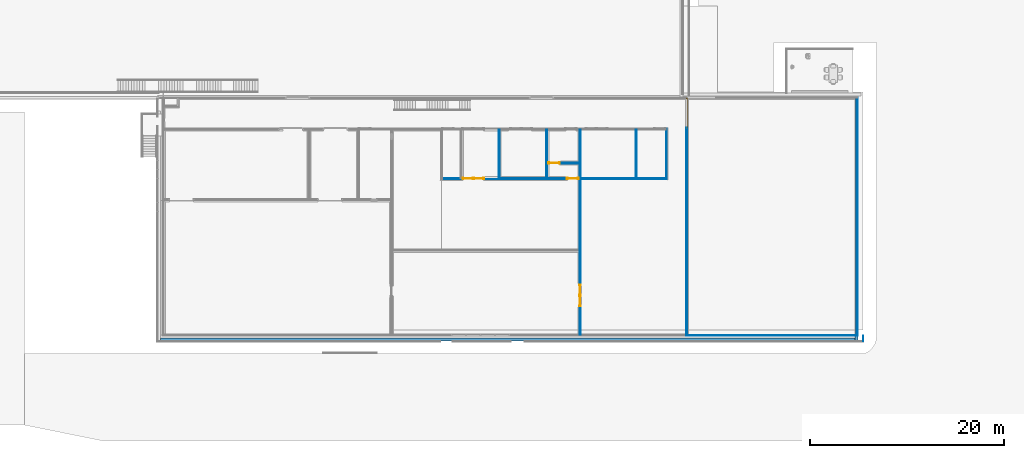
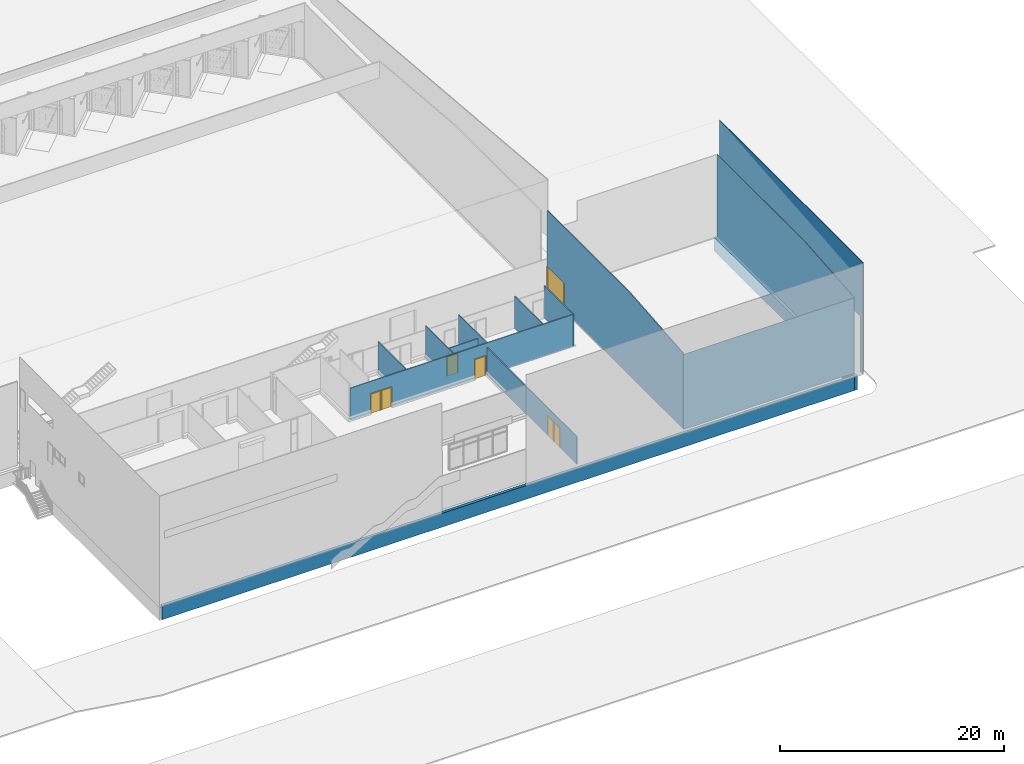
# One storey, part 24 of 64: 14 walls, 7 doors, 8 openings.
"""IFC2X3 building model written with IfcOpenShell, lengths in millimetres."""

from ifc_helpers import new_model, entity, si_unit, converted_unit, derived_unit, direction, frame, frame_2d, origin, origin_2d_with_axis, place, context, subcontext, project, spatial, polyline, rectangle, outline, extrude, clip, halfspace, source, transform, mapped, material, material_list, layer, layer_set, layer_usage, type_object, type_shapes, element, fill, save


model = new_model("IFC2X3")

# Units and contexts
model_context = context("Model", 3, precision=0.01, world=origin(), true_north=direction((4.05803320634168e-15, -1.0)))
body_context = subcontext(model_context, "Body", "Model", "MODEL_VIEW")
ifc_project = project(units=[si_unit("LENGTHUNIT", "METRE", prefix="MILLI"), si_unit("AREAUNIT", "SQUARE_METRE"), si_unit("VOLUMEUNIT", "CUBIC_METRE"), converted_unit("PLANEANGLEUNIT", "DEGREE", entity("IfcRatioMeasure", 0.0174532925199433), si_unit("PLANEANGLEUNIT", "RADIAN"), dimensions=[0, 0, 0, 0, 0, 0, 0]), si_unit("MASSUNIT", "GRAM", prefix="KILO"), derived_unit("MASSDENSITYUNIT", [(si_unit("MASSUNIT", "GRAM", prefix="KILO"), 1), (si_unit("LENGTHUNIT", "METRE"), -3)]), si_unit("TIMEUNIT", "SECOND"), si_unit("FREQUENCYUNIT", "HERTZ"), si_unit("THERMODYNAMICTEMPERATUREUNIT", "DEGREE_CELSIUS"), derived_unit("THERMALTRANSMITTANCEUNIT", [(si_unit("MASSUNIT", "GRAM", prefix="KILO"), 1), (si_unit("THERMODYNAMICTEMPERATUREUNIT", "KELVIN"), -1), (si_unit("TIMEUNIT", "SECOND"), -3)]), derived_unit("VOLUMETRICFLOWRATEUNIT", [(si_unit("LENGTHUNIT", "METRE"), 3), (si_unit("TIMEUNIT", "SECOND"), -1)]), si_unit("ELECTRICCURRENTUNIT", "AMPERE"), si_unit("ELECTRICVOLTAGEUNIT", "VOLT"), si_unit("POWERUNIT", "WATT"), si_unit("FORCEUNIT", "NEWTON", prefix="KILO"), si_unit("ILLUMINANCEUNIT", "LUX"), si_unit("LUMINOUSFLUXUNIT", "LUMEN"), si_unit("LUMINOUSINTENSITYUNIT", "CANDELA"), derived_unit("USERDEFINED", [(si_unit("MASSUNIT", "GRAM", prefix="KILO"), -1), (si_unit("LENGTHUNIT", "METRE"), -2), (si_unit("TIMEUNIT", "SECOND"), 3), (si_unit("LUMINOUSFLUXUNIT", "LUMEN"), 1)]), derived_unit("LINEARVELOCITYUNIT", [(si_unit("LENGTHUNIT", "METRE"), 1), (si_unit("TIMEUNIT", "SECOND"), -1)]), si_unit("PRESSUREUNIT", "PASCAL"), derived_unit("USERDEFINED", [(si_unit("LENGTHUNIT", "METRE"), -2), (si_unit("MASSUNIT", "GRAM", prefix="KILO"), 1), (si_unit("TIMEUNIT", "SECOND"), -2)])], contexts=[model_context])

# Site, building, storey
site_placement = place(None, frame((927466.849349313, 583801.882853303, 0.0), z_axis=(0.0, 0.0, 1.0), x_axis=(-1.0, 0.0, 0.0)))
site = spatial("IfcSite", under=ifc_project, at=site_placement, Name="Surface", CompositionType="ELEMENT")
building_placement = place(site_placement, origin())
building = spatial("IfcBuilding", under=site, at=building_placement, CompositionType="ELEMENT")
storey_placement = place(building_placement, frame((0.0, 0.0, 44170.0)))
storey = spatial("IfcBuildingStorey", under=building, at=storey_placement, Name="Ground FFL", CompositionType="ELEMENT", Elevation=44170.0)

# Wall
ifc_material_1 = material(Name="Isopenal")
ifc_layer_1 = layer(ifc_material_1, 100.0)
ifc_layer_set_1 = layer_set([ifc_layer_1], Name="Basic Wall:Isopanel")
ifc_layer_usage_1 = layer_usage(ifc_layer_set_1, "AXIS2", "POSITIVE", -50.0)
wall_type_1 = type_object("IfcWallType", Name="Basic Wall:Isopanel", PredefinedType="STANDARD", material=ifc_layer_set_1)
wall_1_placement = place(storey_placement, frame((-133197.93727682, 20307.4925063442, 0.0), z_axis=(0.0, 0.0, 1.0), x_axis=(0.0, -1.0, 0.0)))
element("IfcWallStandardCase", 1, at=wall_1_placement, inside=storey, type_object=wall_type_1, material=ifc_layer_usage_1, Name="Basic Wall:Isopanel", ObjectType="Basic Wall:Isopanel", context=body_context, shape_type="SweptSolid", body=[
    extrude(rectangle(XDim=5200.02217964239, YDim=100.000000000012, at=frame_2d((2600.01108982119, -2.02504679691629e-13), x_axis=(-1.0, 0.0))), origin(), (0.0, 0.0, 1.0), 3499.99999999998),
])

# Wall, openings, doors
ifc_layer_usage_2 = layer_usage(ifc_layer_set_1, "AXIS2", "NEGATIVE", 50.0)
wall_2_placement = place(storey_placement, frame((-110127.93727682, 20257.4925063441, 0.0), z_axis=(0.0, 0.0, 1.0), x_axis=(-1.0, 0.0, 0.0)))
wall_2 = element("IfcWallStandardCase", 2, at=wall_2_placement, inside=storey, type_object=wall_type_1, material=ifc_layer_usage_2, Name="Basic Wall:Isopanel", ObjectType="Basic Wall:Isopanel", context=body_context, shape_type="SweptSolid", body=[
    extrude(rectangle(XDim=23020.0000000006, YDim=100.000000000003, at=frame_2d((11510.0000000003, -8.81072992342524e-13), x_axis=(-1.0, 0.0))), origin(), (0.0, 0.0, 1.0), 3499.99999999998),
])
opening_1_placement = place(wall_2_placement, frame((12899.4374898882, -50.0, 0.0)))
opening_1 = element("IfcOpeningElement", 3, at=opening_1_placement, cuts=wall_2, Name="M_Single-Flush:1050 x 2134mm:1", ObjectType="Opening", context=body_context, shape_type="SweptSolid", body=[
    extrude(rectangle(XDim=1050.0, YDim=2134.0, at=frame_2d((1067.0, 525.000000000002), x_axis=(0.0, 1.0))), frame((0.0, 0.0, 0.0), z_axis=(0.0, 1.0, 0.0), x_axis=(0.0, 0.0, 1.0)), (0.0, 0.0, 1.0), 100.0),
])
opening_2_placement = place(wall_2_placement, frame((3170.0, -50.0, 0.0)))
opening_2 = element("IfcOpeningElement", 4, at=opening_2_placement, cuts=wall_2, Name="M_Single-Flush:1050 x 2134mm:1", ObjectType="Opening", context=body_context, shape_type="SweptSolid", body=[
    extrude(rectangle(XDim=1050.0, YDim=2134.0, at=frame_2d((1067.0, 525.000000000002), x_axis=(0.0, 1.0))), frame((0.0, 0.0, 0.0), z_axis=(0.0, 1.0, 0.0), x_axis=(0.0, 0.0, 1.0)), (0.0, 0.0, 1.0), 100.0),
])
opening_3_placement = place(wall_2_placement, frame((2160.0, -50.0, 0.0)))
opening_3 = element("IfcOpeningElement", 5, at=opening_3_placement, cuts=wall_2, Name="M_Single-Flush:1050 x 2134mm:1", ObjectType="Opening", context=body_context, shape_type="SweptSolid", body=[
    extrude(rectangle(XDim=1050.0, YDim=2134.0, at=frame_2d((1067.0, 525.000000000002), x_axis=(0.0, -1.0))), frame((0.0, 0.0, 0.0), z_axis=(0.0, 1.0, 0.0), x_axis=(0.0, 0.0, 1.0)), (0.0, 0.0, 1.0), 100.0),
])
ifc_material_2 = material(Name="Door - Frame")
ifc_material_3 = material(Name="Door - Panel")
ifc_material_list_1 = material_list([ifc_material_2, ifc_material_3])
ifc_material_list_2 = material_list([ifc_material_2, ifc_material_3])
door_style_1 = type_object("IfcDoorStyle", Name="1050 x 2134mm", ConstructionType="NOTDEFINED", OperationType="SINGLE_SWING_LEFT", ParameterTakesPrecedence=False, Sizeable=False, material=ifc_material_list_2)
shared_shape_1 = source(origin(), body_context, "Body", "SweptSolid", [
    extrude(outline(polyline([(-601.0, -1124.0), (601.0, -1124.0), (601.0, 1086.0), (525.0, 1086.0), (525.0, -1048.0), (-525.0, -1048.0), (-525.0, 1086.0), (-601.0, 1086.0), (-601.0, -1124.0)])), frame((525.0, 125.0, 1086.0), z_axis=(0.0, -1.0, 0.0), x_axis=(-1.0, 0.0, 0.0)), (0.0, 0.0, 1.0), 24.9999999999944),
    extrude(outline(polyline([(-1124.0, -601.0), (1086.0, -601.0), (1086.0, -525.0), (-1048.0, -525.0), (-1048.0, 525.0), (1086.0, 525.0), (1086.0, 601.0), (-1124.0, 601.0), (-1124.0, -601.0)])), frame((525.0, 0.0, 1086.0), z_axis=(0.0, -1.0, 0.0), x_axis=(0.0, 0.0, -1.0)), (0.0, 0.0, 1.0), 25.0000000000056),
    extrude(rectangle(XDim=1050.0, YDim=51.0, at=origin_2d_with_axis()), frame((525.0, 74.4999999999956, 0.0)), (0.0, 0.0, 1.0), 2134.0),
])
type_shapes(door_style_1, [shared_shape_1])
door_1_placement = place(opening_3_placement, origin())
door_1 = element("IfcDoor", 6, at=door_1_placement, inside=storey, type_object=door_style_1, material=ifc_material_list_1, Name="M_Single-Flush:1050 x 2134mm", ObjectType="1050 x 2134mm", OverallHeight=2134.0, OverallWidth=1050.0, context=body_context, shape_type="MappedRepresentation", body=[
    mapped(shared_shape_1, transform((0.0, 0.0, 0.0), scale=1.0)),
])
fill(opening_3, door_1)
ifc_material_list_3 = material_list([ifc_material_2, ifc_material_3])
ifc_material_list_4 = material_list([ifc_material_2, ifc_material_3])
door_style_2 = type_object("IfcDoorStyle", Name="1050 x 2134mm", ConstructionType="NOTDEFINED", OperationType="SINGLE_SWING_RIGHT", ParameterTakesPrecedence=False, Sizeable=False, material=ifc_material_list_4)
shared_shape_2 = source(origin(), body_context, "Body", "SweptSolid", [
    extrude(outline(polyline([(-601.0, -1124.0), (601.0, -1124.0), (601.0, 1086.0), (525.0, 1086.0), (525.0, -1048.0), (-525.0, -1048.0), (-525.0, 1086.0), (-601.0, 1086.0), (-601.0, -1124.0)])), frame((525.0, 100.0, 1086.0), z_axis=(0.0, 1.0, 0.0), x_axis=(1.0, 0.0, 0.0)), (0.0, 0.0, 1.0), 24.9999999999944),
    extrude(outline(polyline([(-1124.0, -601.0), (1086.0, -601.0), (1086.0, -525.0), (-1048.0, -525.0), (-1048.0, 525.0), (1086.0, 525.0), (1086.0, 601.0), (-1124.0, 601.0), (-1124.0, -601.0)])), frame((525.0, -25.0, 1086.0), z_axis=(0.0, 1.0, 0.0), x_axis=(0.0, 0.0, -1.0)), (0.0, 0.0, 1.0), 25.0000000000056),
    extrude(rectangle(XDim=51.0, YDim=1050.0, at=origin_2d_with_axis()), frame((525.0, 74.500000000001, 0.0), z_axis=(0.0, 0.0, 1.0), x_axis=(0.0, 1.0, 0.0)), (0.0, 0.0, 1.0), 2134.0),
])
type_shapes(door_style_2, [shared_shape_2])
door_2_placement = place(opening_1_placement, origin())
door_2 = element("IfcDoor", 7, at=door_2_placement, inside=storey, type_object=door_style_2, material=ifc_material_list_3, Name="M_Single-Flush:1050 x 2134mm", ObjectType="1050 x 2134mm", OverallHeight=2134.0, OverallWidth=1050.0, context=body_context, shape_type="MappedRepresentation", body=[
    mapped(shared_shape_2, transform((0.0, 0.0, 0.0), scale=1.0)),
])
fill(opening_1, door_2)
ifc_material_list_5 = material_list([ifc_material_2, ifc_material_3])
door_3_placement = place(opening_2_placement, origin())
door_3 = element("IfcDoor", 8, at=door_3_placement, inside=storey, type_object=door_style_2, material=ifc_material_list_5, Name="M_Single-Flush:1050 x 2134mm", ObjectType="1050 x 2134mm", OverallHeight=2134.0, OverallWidth=1050.0, context=body_context, shape_type="MappedRepresentation", body=[
    mapped(shared_shape_2, transform((0.0, 0.0, 0.0), scale=1.0)),
])
fill(opening_2, door_3)

# Walls
ifc_layer_usage_3 = layer_usage(ifc_layer_set_1, "AXIS2", "POSITIVE", -50.0)
wall_3_placement = place(storey_placement, frame((-130097.93727682, 20207.4925063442, 0.0), z_axis=(0.0, 0.0, 1.0), x_axis=(0.0, -1.0, 0.0)))
element("IfcWallStandardCase", 9, at=wall_3_placement, inside=storey, type_object=wall_type_1, material=ifc_layer_usage_3, Name="Basic Wall:Isopanel", ObjectType="Basic Wall:Isopanel", context=body_context, shape_type="SweptSolid", body=[
    extrude(rectangle(XDim=5000.02217964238, YDim=100.000000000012, at=frame_2d((2500.01108982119, -5.29354338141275e-13), x_axis=(-1.0, 0.0))), origin(), (0.0, 0.0, 1.0), 3499.99999999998),
])
ifc_layer_usage_4 = layer_usage(ifc_layer_set_1, "AXIS2", "POSITIVE", -50.0)
wall_4_placement = place(storey_placement, frame((-124297.937276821, 20207.4925063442, 0.0), z_axis=(0.0, 0.0, 1.0), x_axis=(0.0, -1.0, 0.0)))
element("IfcWallStandardCase", 10, at=wall_4_placement, inside=storey, type_object=wall_type_1, material=ifc_layer_usage_4, Name="Basic Wall:Isopanel", ObjectType="Basic Wall:Isopanel", context=body_context, shape_type="SweptSolid", body=[
    extrude(rectangle(XDim=5000.02217964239, YDim=100.000000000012, at=frame_2d((2500.01108982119, -5.29354338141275e-13), x_axis=(-1.0, 0.0))), origin(), (0.0, 0.0, 1.0), 3499.99999999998),
])
ifc_layer_usage_5 = layer_usage(ifc_layer_set_1, "AXIS2", "POSITIVE", -50.0)
wall_5_placement = place(storey_placement, frame((-120877.374766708, 20207.4925063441, 0.0), z_axis=(0.0, 0.0, 1.0), x_axis=(0.0, -1.0, 0.0)))
element("IfcWallStandardCase", 11, at=wall_5_placement, inside=storey, type_object=wall_type_1, material=ifc_layer_usage_5, Name="Basic Wall:Isopanel", ObjectType="Basic Wall:Isopanel", context=body_context, shape_type="SweptSolid", body=[
    extrude(rectangle(XDim=5000.02217964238, YDim=100.000000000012, at=frame_2d((2500.01108982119, -5.29354338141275e-13), x_axis=(-1.0, 0.0))), origin(), (0.0, 0.0, 1.0), 3499.99999999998),
])
ifc_layer_usage_6 = layer_usage(ifc_layer_set_1, "AXIS2", "POSITIVE", -50.0)
wall_6_placement = place(storey_placement, frame((-115977.374766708, 20207.4925063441, 0.0), z_axis=(0.0, 0.0, 1.0), x_axis=(0.0, -1.0, 0.0)))
element("IfcWallStandardCase", 12, at=wall_6_placement, inside=storey, type_object=wall_type_1, material=ifc_layer_usage_6, Name="Basic Wall:Isopanel", ObjectType="Basic Wall:Isopanel", context=body_context, shape_type="SweptSolid", body=[
    extrude(rectangle(XDim=5000.02217964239, YDim=100.000000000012, at=frame_2d((2500.01108982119, -5.29354338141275e-13), x_axis=(-1.0, 0.0))), origin(), (0.0, 0.0, 1.0), 3499.99999999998),
])

# Wall, opening, door
ifc_layer_usage_7 = layer_usage(ifc_layer_set_1, "AXIS2", "NEGATIVE", 50.0)
wall_7_placement = place(storey_placement, frame((-120927.374766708, 18657.4703266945, 0.0), z_axis=(0.0, 0.0, 1.0), x_axis=(-1.0, 0.0, 0.0)))
wall_7 = element("IfcWallStandardCase", 13, at=wall_7_placement, inside=storey, type_object=wall_type_1, material=ifc_layer_usage_7, Name="Basic Wall:Isopanel", ObjectType="Basic Wall:Isopanel", context=body_context, shape_type="SweptSolid", body=[
    extrude(rectangle(XDim=3320.56251011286, YDim=99.9999999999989, at=frame_2d((1660.28125505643, 1.06226138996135e-12), x_axis=(-1.0, 0.0))), origin(), (0.0, 0.0, 1.0), 3000.00000000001),
])
opening_4_placement = place(wall_7_placement, frame((172.500000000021, -50.0, 0.0)))
opening_4 = element("IfcOpeningElement", 14, at=opening_4_placement, cuts=wall_7, Name="M_Single-Flush:1050 x 2134mm:1", ObjectType="Opening", context=body_context, shape_type="SweptSolid", body=[
    extrude(rectangle(XDim=1050.0, YDim=2134.0, at=frame_2d((1067.0, 525.000000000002), x_axis=(0.0, -1.0))), frame((0.0, 0.0, 0.0), z_axis=(0.0, 1.0, 0.0), x_axis=(0.0, 0.0, 1.0)), (0.0, 0.0, 1.0), 100.0),
])
ifc_material_list_6 = material_list([ifc_material_2, ifc_material_3])
door_4_placement = place(opening_4_placement, origin())
door_4 = element("IfcDoor", 15, at=door_4_placement, inside=storey, type_object=door_style_1, material=ifc_material_list_6, Name="M_Single-Flush:1050 x 2134mm", ObjectType="1050 x 2134mm", OverallHeight=2134.0, OverallWidth=1050.0, context=body_context, shape_type="MappedRepresentation", body=[
    mapped(shared_shape_1, transform((0.0, 0.0, 0.0), scale=1.0)),
])
fill(opening_4, door_4)

# Wall, openings, doors
ifc_layer_usage_8 = layer_usage(ifc_layer_set_1, "AXIS2", "POSITIVE", -50.0)
wall_8_placement = place(storey_placement, frame((-124297.937276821, 36355.9699019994, 0.0), z_axis=(0.0, 0.0, 1.0), x_axis=(0.0, -1.0, 0.0)))
wall_8 = element("IfcWallStandardCase", 16, at=wall_8_placement, inside=storey, type_object=wall_type_1, material=ifc_layer_usage_8, Name="Basic Wall:Isopanel", ObjectType="Basic Wall:Isopanel", context=body_context, shape_type="SweptSolid", body=[
    extrude(rectangle(XDim=16048.4773956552, YDim=100.000000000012, at=frame_2d((8024.23869782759, 1.24344978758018e-13), x_axis=(-1.0, 0.0))), origin(), (0.0, 0.0, 1.0), 3000.00000000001),
])
opening_5_placement = place(wall_8_placement, frame((4065.0547217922, -50.0, 0.0)))
opening_5 = element("IfcOpeningElement", 17, at=opening_5_placement, cuts=wall_8, Name="M_Single-Flush:1050 x 2134mm:1", ObjectType="Opening", context=body_context, shape_type="SweptSolid", body=[
    extrude(rectangle(XDim=1050.0, YDim=2134.0, at=frame_2d((1067.0, 525.0), x_axis=(0.0, 1.0))), frame((0.0, 0.0, 0.0), z_axis=(0.0, 1.0, 0.0), x_axis=(0.0, 0.0, 1.0)), (0.0, 0.0, 1.0), 100.0),
])
opening_6_placement = place(wall_8_placement, frame((3015.05472179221, -50.0, 0.0)))
opening_6 = element("IfcOpeningElement", 18, at=opening_6_placement, cuts=wall_8, Name="M_Single-Flush:1050 x 2134mm:1", ObjectType="Opening", context=body_context, shape_type="SweptSolid", body=[
    extrude(rectangle(XDim=1050.0, YDim=2134.0, at=frame_2d((1067.0, 525.0), x_axis=(0.0, -1.0))), frame((0.0, 0.0, 0.0), z_axis=(0.0, 1.0, 0.0), x_axis=(0.0, 0.0, 1.0)), (0.0, 0.0, 1.0), 100.0),
])
ifc_material_list_7 = material_list([ifc_material_2, ifc_material_3])
door_5_placement = place(opening_6_placement, origin())
door_5 = element("IfcDoor", 19, at=door_5_placement, inside=storey, type_object=door_style_1, material=ifc_material_list_7, Name="M_Single-Flush:1050 x 2134mm", ObjectType="1050 x 2134mm", OverallHeight=2134.0, OverallWidth=1050.0, context=body_context, shape_type="MappedRepresentation", body=[
    mapped(shared_shape_1, transform((0.0, 0.0, 0.0), scale=1.0)),
])
fill(opening_6, door_5)
ifc_material_list_8 = material_list([ifc_material_2, ifc_material_3])
door_6_placement = place(opening_5_placement, origin())
door_6 = element("IfcDoor", 20, at=door_6_placement, inside=storey, type_object=door_style_2, material=ifc_material_list_8, Name="M_Single-Flush:1050 x 2134mm", ObjectType="1050 x 2134mm", OverallHeight=2134.0, OverallWidth=1050.0, context=body_context, shape_type="MappedRepresentation", body=[
    mapped(shared_shape_2, transform((0.0, 0.0, 0.0), scale=1.0)),
])
fill(opening_5, door_6)

# Wall, opening, door
ifc_layer_usage_9 = layer_usage(ifc_layer_set_1, "AXIS2", "POSITIVE", -50.0)
wall_9_placement = place(storey_placement, frame((-135297.93727682, 36355.9699019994, 0.0), z_axis=(0.0, 0.0, 1.0), x_axis=(0.0, -1.0, 0.0)))
wall_9 = element("IfcWallStandardCase", 21, at=wall_9_placement, inside=storey, type_object=wall_type_1, material=ifc_layer_usage_9, Name="Basic Wall:Isopanel", ObjectType="Basic Wall:Isopanel", context=body_context, shape_type="Clipping", body=[
    clip(extrude(rectangle(XDim=24347.6921507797, YDim=100.000000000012, at=frame_2d((12173.8460753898, 4.9631410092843e-12), x_axis=(-1.0, 0.0))), origin(), (0.0, 0.0, 1.0), 9100.00000000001), halfspace(frame((0.0, -50.0, 8239.01081015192), z_axis=(-0.0871557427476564, 0.0, 0.996194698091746), x_axis=(0.0, 1.0, 0.0)), False)),
])
opening_7_placement = place(wall_9_placement, frame((21347.6921507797, -50.0, 0.0)))
opening_7 = element("IfcOpeningElement", 22, at=opening_7_placement, cuts=wall_9, Name="Rollershutter:3000(w) x 3000(h):1", ObjectType="Opening", context=body_context, shape_type="SweptSolid", body=[
    extrude(rectangle(XDim=3000.0, YDim=3000.0, at=frame_2d((1500.0, 1500.0), x_axis=(1.0, 0.0))), frame((0.0, 0.0, 0.0), z_axis=(0.0, 1.0, 0.0), x_axis=(0.0, 0.0, 1.0)), (0.0, 0.0, 1.0), 100.0),
])
ifc_material_4 = material(Name="Metal - Paint Finish - Ivory, Matte")
ifc_material_5 = material(Name="Metal - Galvanised")
ifc_material_list_9 = material_list([ifc_material_4, ifc_material_5])
ifc_material_list_10 = material_list([ifc_material_4, ifc_material_5])
door_style_3 = type_object("IfcDoorStyle", Name="3000(w) x 3000(h)", ConstructionType="NOTDEFINED", OperationType="NOTDEFINED", ParameterTakesPrecedence=False, Sizeable=False, material=ifc_material_list_10)
shared_shape_3 = source(origin(), body_context, "Body", "SweptSolid", [
    extrude(outline(polyline([(-50.6000000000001, -73.3333333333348), (-20.5999999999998, -73.3333333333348), (-20.5999999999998, 21.6666666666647), (71.1999999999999, 21.6666666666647), (71.1999999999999, 51.6666666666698), (-50.6000000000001, 51.6666666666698), (-50.6000000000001, -73.3333333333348)])), frame((-21.6666666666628, 79.3999999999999, 0.0), z_axis=(0.0, 0.0, 1.0), x_axis=(0.0, -1.0, 0.0)), (0.0, 0.0, 1.0), 3000.0),
    extrude(rectangle(XDim=3000.0, YDim=51.0, at=frame_2d((0.0, -3.5527136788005e-15), x_axis=(1.0, 0.0))), frame((1500.0, -25.5, 0.0), z_axis=(0.0, 0.0, 1.0), x_axis=(-1.0, 0.0, 0.0)), (0.0, 0.0, 1.0), 3000.0),
    extrude(outline(polyline([(-73.3333333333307, -50.5999999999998), (51.666666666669, -50.5999999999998), (51.666666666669, 71.1999999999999), (21.6666666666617, 71.1999999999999), (21.6666666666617, -20.6000000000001), (-73.3333333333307, -20.6000000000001), (-73.3333333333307, -50.5999999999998)])), frame((3021.66666666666, 79.3999999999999, 0.0), z_axis=(0.0, 0.0, 1.0), x_axis=(-1.0, 0.0, 0.0)), (0.0, 0.0, 1.0), 3000.0),
    extrude(rectangle(XDim=3000.0, YDim=400.0, at=frame_2d((3.41060513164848e-13, 4.2632564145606e-14), x_axis=(1.0, 0.0))), frame((1500.0, -200.0, 3000.0)), (0.0, 0.0, 1.0), 400.0),
])
type_shapes(door_style_3, [shared_shape_3])
door_7_placement = place(opening_7_placement, origin())
door_7 = element("IfcDoor", 23, at=door_7_placement, inside=storey, type_object=door_style_3, material=ifc_material_list_9, Name="Rollershutter:3000(w) x 3000(h)", ObjectType="3000(w) x 3000(h)", OverallHeight=3000.0, OverallWidth=3000.0, context=body_context, shape_type="MappedRepresentation", body=[
    mapped(shared_shape_3, transform((0.0, 0.0, 0.0), scale=1.0)),
])
fill(opening_7, door_7)

# Wall, opening
ifc_material_6 = material(Name="Cladding(2)")
ifc_layer_2 = layer(ifc_material_6, 38.0)
ifc_layer_set_2 = layer_set([ifc_layer_2], Name="Basic Wall:Cladding 3")
ifc_layer_usage_10 = layer_usage(ifc_layer_set_2, "AXIS2", "POSITIVE", -19.0)
wall_type_2 = type_object("IfcWallType", Name="Basic Wall:Cladding 3", PredefinedType="NOTDEFINED")
wall_10_placement = place(storey_placement, frame((-153457.690247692, 11358.2777512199, 0.0), z_axis=(0.0, 0.0, 1.0), x_axis=(0.0, 1.0, 0.0)))
wall_10 = element("IfcWallStandardCase", 24, at=wall_10_placement, inside=storey, type_object=wall_type_2, material=ifc_layer_usage_10, Name="Basic Wall:Cladding 3", ObjectType="Basic Wall:Cladding 3", context=body_context, shape_type="SweptSolid", body=[
    extrude(rectangle(XDim=25668.8076615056, YDim=37.9999999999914, at=frame_2d((12834.4038307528, -2.30215846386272e-12), x_axis=(-1.0, 0.0))), origin(), (0.0, 0.0, 1.0), 12200.0),
])
opening_8_placement = place(wall_10_placement, origin())
element("IfcOpeningElement", 25, at=opening_8_placement, cuts=wall_10, Name="Basic Wall:Cladding 3", ObjectType="Opening", context=body_context, shape_type="SweptSolid", body=[
    extrude(rectangle(XDim=6000.0, YDim=25097.6921507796, at=frame_2d((4.32009983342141e-12, 1.81898940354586e-12), x_axis=(1.0, 0.0))), frame((12548.8460753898, 19.0, 3000.0), z_axis=(0.0, -1.0, 0.0), x_axis=(0.0, 0.0, -1.0)), (0.0, 0.0, 1.0), 38.0),
])

# Walls
ifc_material_7 = material(Name="conc bund")
ifc_layer_3 = layer(ifc_material_7, 300.0)
ifc_layer_set_3 = layer_set([ifc_layer_3], Name="Basic Wall:300 bund wall")
ifc_layer_usage_11 = layer_usage(ifc_layer_set_3, "AXIS2", "NEGATIVE", 150.0)
wall_type_3 = type_object("IfcWallType", Name="Basic Wall:300 bund wall", PredefinedType="STANDARD", material=ifc_layer_set_3)
wall_11_placement = place(storey_placement, frame((-81100.5917798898, 36823.4058517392, -1500.0), z_axis=(0.0, 0.0, 1.0), x_axis=(-1.0, 0.0, 0.0)))
element("IfcWallStandardCase", 26, at=wall_11_placement, inside=storey, type_object=wall_type_3, material=ifc_layer_usage_11, Name="Basic Wall:300 bund wall", ObjectType="Basic Wall:300 bund wall", context=body_context, shape_type="SweptSolid", body=[
    extrude(rectangle(XDim=71498.0984678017, YDim=300.000000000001, at=frame_2d((35749.0492339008, -1.30739863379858e-12), x_axis=(-1.0, 0.0))), origin(), (0.0, 0.0, 1.0), 1500.00000000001),
])
ifc_layer_usage_12 = layer_usage(ifc_layer_set_3, "AXIS2", "NEGATIVE", 150.0)
wall_12_placement = place(storey_placement, frame((-152748.690247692, 36973.4058517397, -1500.50294636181), z_axis=(0.0, 0.0, 1.0), x_axis=(0.0, -1.0, 0.0)))
element("IfcWallStandardCase", 27, at=wall_12_placement, inside=storey, type_object=wall_type_3, material=ifc_layer_usage_12, Name="Basic Wall:300 bund wall", ObjectType="Basic Wall:300 bund wall", context=body_context, shape_type="SweptSolid", body=[
    extrude(rectangle(XDim=25150.0000000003, YDim=300.000000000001, at=frame_2d((12575.0000000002, -7.41806616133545e-12), x_axis=(-1.0, 0.0))), origin(), (0.0, 0.0, 1.0), 1500.50294636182),
])
ifc_layer_4 = layer(ifc_material_1, 50.0)
ifc_layer_set_4 = layer_set([ifc_layer_4], Name="Basic Wall:Isopanel 50mm")
ifc_layer_usage_13 = layer_usage(ifc_layer_set_4, "AXIS2", "POSITIVE", -25.0)
wall_type_4 = type_object("IfcWallType", Name="Basic Wall:Isopanel 50mm", PredefinedType="STANDARD", material=ifc_layer_set_4)
wall_13_placement = place(storey_placement, frame((-152873.690247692, 11908.2777512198, 0.0), z_axis=(0.0, 0.0, 1.0), x_axis=(0.0, 1.0, 0.0)))
element("IfcWallStandardCase", 28, at=wall_13_placement, inside=storey, type_object=wall_type_4, material=ifc_layer_usage_13, Name="Basic Wall:Isopanel 50mm", ObjectType="Basic Wall:Isopanel 50mm", context=body_context, shape_type="Clipping", body=[
    clip(extrude(rectangle(XDim=24547.69215078, YDim=49.9999999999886, at=frame_2d((12273.84607539, 1.92024174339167e-12), x_axis=(-1.0, 0.0))), origin(), (0.0, 0.0, 1.0), 9000.0), halfspace(frame((15749.5459089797, -25.0, 9000.0), z_axis=(0.0871557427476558, 0.0, 0.996194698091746), x_axis=(0.0, 1.0, 0.0)), False)),
])
ifc_layer_usage_14 = layer_usage(ifc_layer_set_4, "AXIS2", "POSITIVE", -25.0)
wall_14_placement = place(storey_placement, frame((-152848.690247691, 36430.9699019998, 0.0)))
element("IfcWallStandardCase", 29, at=wall_14_placement, inside=storey, type_object=wall_type_4, material=ifc_layer_usage_14, Name="Basic Wall:Isopanel 50mm", ObjectType="Basic Wall:Isopanel 50mm", context=body_context, shape_type="SweptSolid", body=[
    extrude(rectangle(XDim=17600.7529708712, YDim=49.9999999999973, at=frame_2d((8800.37648543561, 5.91526827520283e-13), x_axis=(-1.0, 0.0))), origin(), (0.0, 0.0, 1.0), 8200.00000000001),
])

save(model, "model.ifc")
